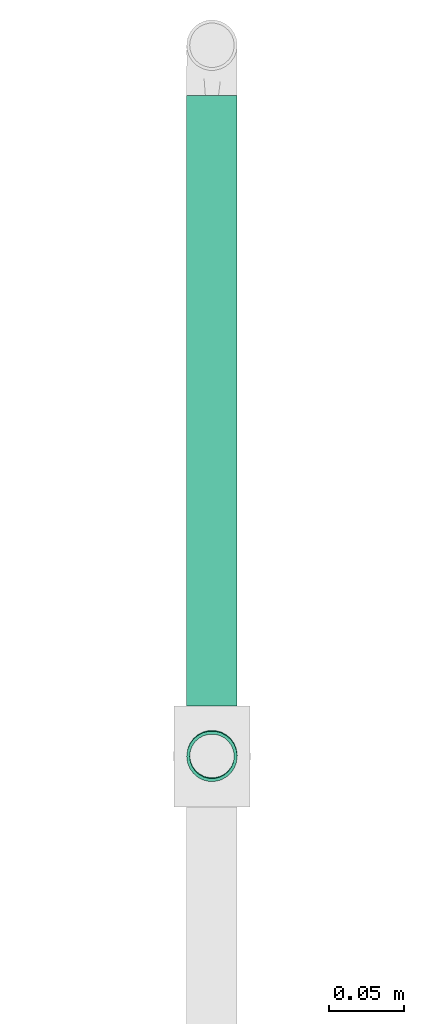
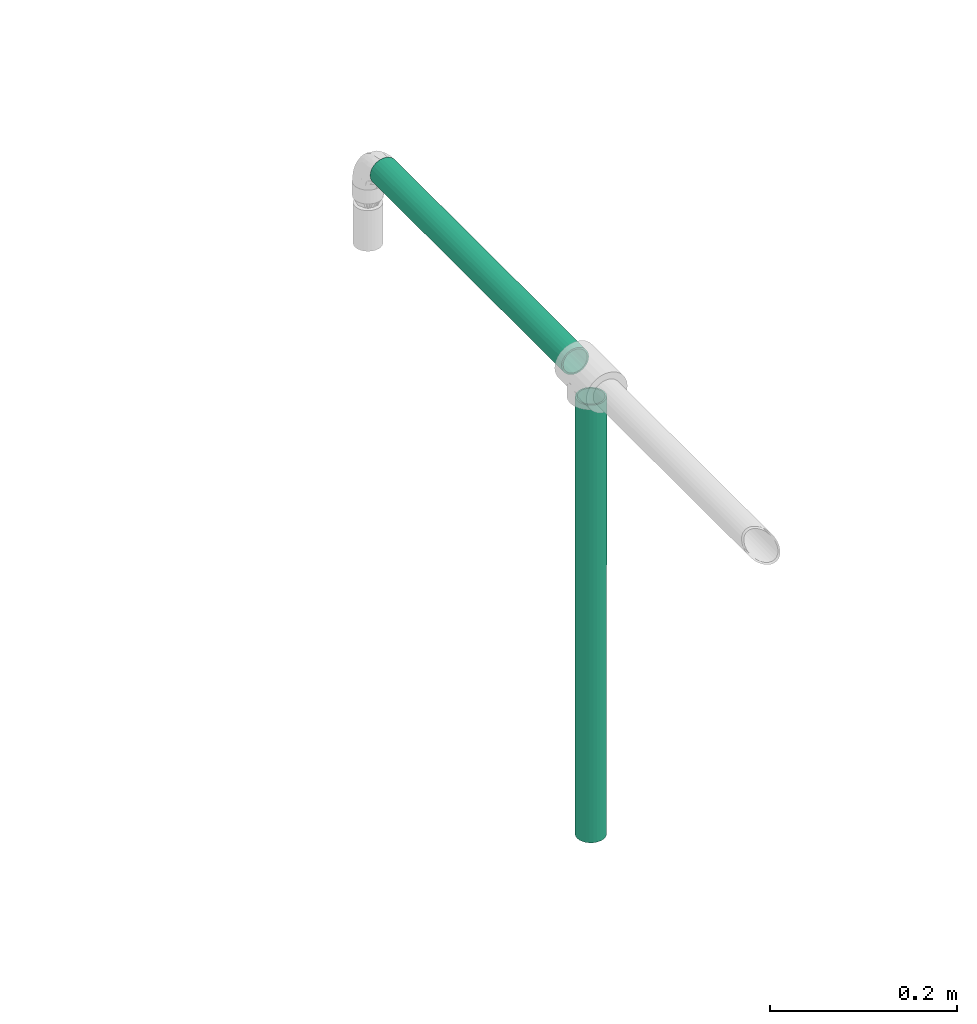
# One storey, part 3 of 17: 2 flow segments.
"""IFC2X3 building model written with IfcOpenShell, lengths in millimetres."""

from ifc_helpers import new_model, entity, si_unit, converted_unit, derived_unit, direction, frame, origin_with_axes, origin_2d_with_axis, place, context, subcontext, project, spatial, hollow_circle, extrude, source, transform, mapped, type_object, element, save


model = new_model("IFC2X3")

# Units and contexts
model_context = context("Model", 3, precision=0.01, world=frame((0.0, 4.29681676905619e-09, 0.0)), true_north=direction((4.01073788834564e-13, 1.0)))
plan_context = context("Plan", 3, precision=0.01, world=frame((0.0, 4.29681676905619e-09, 0.0)), true_north=direction((4.01073788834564e-13, 1.0)))
body_context = subcontext(model_context, "Body", "Model", "MODEL_VIEW")
ifc_project = project(units=[converted_unit("PLANEANGLEUNIT", "DEGREE", entity("IfcPositiveLengthMeasure", 0.0174532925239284), si_unit("PLANEANGLEUNIT", "RADIAN"), dimensions=[0, 0, 0, 0, 0, 0, 0]), si_unit("AREAUNIT", "SQUARE_METRE"), si_unit("LENGTHUNIT", "METRE", prefix="MILLI"), si_unit("MASSUNIT", "GRAM", prefix="KILO"), si_unit("POWERUNIT", "WATT"), si_unit("PRESSUREUNIT", "PASCAL"), si_unit("FORCEUNIT", "NEWTON", prefix="KILO"), si_unit("ELECTRICVOLTAGEUNIT", "VOLT"), si_unit("ELECTRICCURRENTUNIT", "AMPERE"), si_unit("THERMODYNAMICTEMPERATUREUNIT", "DEGREE_CELSIUS"), si_unit("TIMEUNIT", "SECOND"), si_unit("VOLUMEUNIT", "CUBIC_METRE"), derived_unit("LINEARVELOCITYUNIT", [(si_unit("LENGTHUNIT", "METRE"), 1), (si_unit("TIMEUNIT", "SECOND"), -1)]), derived_unit("VOLUMETRICFLOWRATEUNIT", [(si_unit("VOLUMEUNIT", "CUBIC_METRE"), 1), (si_unit("TIMEUNIT", "SECOND"), -1)]), derived_unit("THERMALTRANSMITTANCEUNIT", [(si_unit("POWERUNIT", "WATT"), 1), (si_unit("THERMODYNAMICTEMPERATUREUNIT", "KELVIN"), -1), (si_unit("AREAUNIT", "SQUARE_METRE"), -1)]), derived_unit("SOUNDPRESSUREUNIT", [(si_unit("PRESSUREUNIT", "PASCAL"), 1)])], contexts=[model_context, plan_context])

# Site, building, storey
site_placement = place(None, frame((0.0, -4.29681676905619e-09, 0.0), z_axis=(0.0, 0.0, 1.0), x_axis=(1.0, 0.0, 0.0)))
site = spatial("IfcSite", under=ifc_project, at=site_placement, Name="ENGM", CompositionType="ELEMENT")
building_placement = place(site_placement, frame((0.0, 4.29681676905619e-09, 0.0), z_axis=(0.0, 0.0, 1.0), x_axis=(1.0, 0.0, 0.0)))
building = spatial("IfcBuilding", under=site, at=building_placement, Name="TH", CompositionType="ELEMENT")
storey_placement = place(building_placement, frame((0.0, 0.0, 205200.0), z_axis=(0.0, 0.0, 1.0), x_axis=(1.0, 0.0, 0.0)))
storey = spatial("IfcBuildingStorey", under=building, at=storey_placement, Name="Nivå D + 1,2 m", CompositionType="ELEMENT", Elevation=205200.0)

# Flow segments
pipe_segment_type = type_object("IfcPipeSegmentType", Name="Stålrør normaltykke", PredefinedType="RIGIDSEGMENT")
shared_shape_1 = source(origin_with_axes(), body_context, "Body", "SweptSolid", [
    extrude(hollow_circle(Radius=16.9, WallThickness=2.0, at=origin_2d_with_axis()), frame((0.0, 0.0, 0.0), z_axis=(1.0, 0.0, 0.0), x_axis=(0.0, 1.0, 0.0)), (0.0, 0.0, 1.0), 570.6),
])
flow_segment_1_placement = place(storey_placement, frame((905442.58595, 482082.24586, 3846.56301000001), z_axis=(1.16467030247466e-21, 0.999999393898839, 0.00110100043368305), x_axis=(-0.000144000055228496, -0.00110100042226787, 0.999999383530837)))
element("IfcFlowSegment", 1, at=flow_segment_1_placement, inside=storey, type_object=pipe_segment_type, Name="Stålrør normaltykke", context=body_context, shape_type="MappedRepresentation", body=[
    mapped(shared_shape_1, transform((0.0, 0.0, 0.0), scale=1.0)),
])
shared_shape_2 = source(origin_with_axes(), body_context, "Body", "SweptSolid", [
    extrude(hollow_circle(Radius=16.9, WallThickness=2.0, at=origin_2d_with_axis()), frame((0.0, 0.0, 0.0), z_axis=(1.0, 0.0, 0.0), x_axis=(0.0, 1.0, 0.0)), (0.0, 0.0, 1.0), 408.5),
])
flow_segment_2_placement = place(storey_placement, frame((905442.5, 482115.41786, 4442.5), z_axis=(0.0, 0.0, 1.0), x_axis=(0.0, 1.0, 0.0)))
element("IfcFlowSegment", 2, at=flow_segment_2_placement, inside=storey, type_object=pipe_segment_type, Name="Stålrør normaltykke", context=body_context, shape_type="MappedRepresentation", body=[
    mapped(shared_shape_2, transform((0.0, 0.0, 0.0), scale=1.0)),
])

save(model, "model.ifc")
